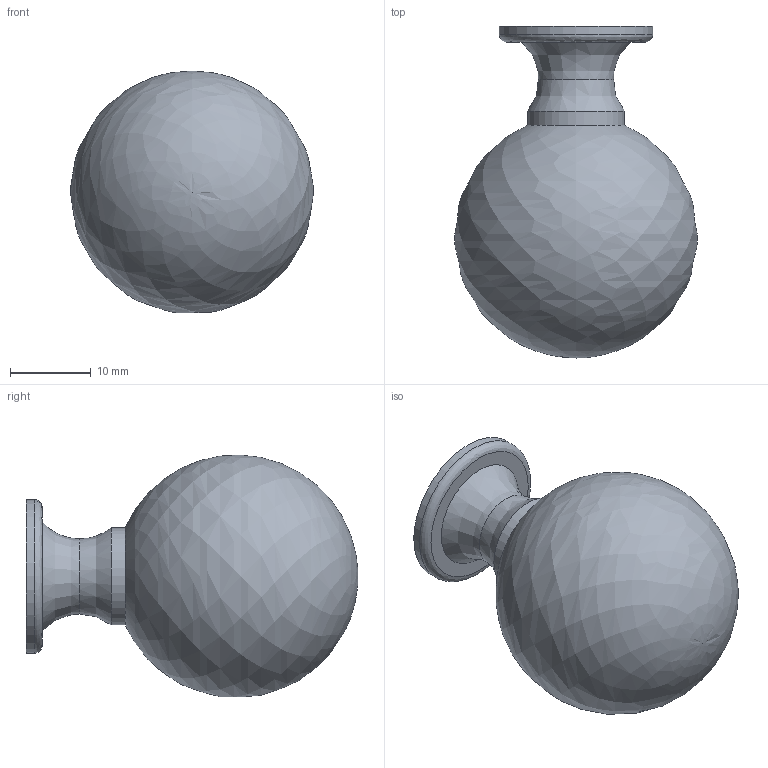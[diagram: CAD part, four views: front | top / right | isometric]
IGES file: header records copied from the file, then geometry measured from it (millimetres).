
Start section: Data from Parasolid IGES Translator 15.0.47, Copyright(c) 2006 Siemens P LM Software. All Rights Reserved.
Global section: file name: 9070520.igs; native system:  By UGS Corp.; preprocessor: XPlus GENERIC/IGES 3.0; author: Noname; organization: Noname; date: 20140122.163634; units: millimetre
Bounding box: 29.98 x 41 x 29.89 mm (x, y, z)
Surface area: 3698.4 mm2 (no closed solid volume)
Topology: 0 solids, 0 shells, 10 faces, 33 edges, 24 vertices
Faces by surface type: revolution 7, extrusion 3
